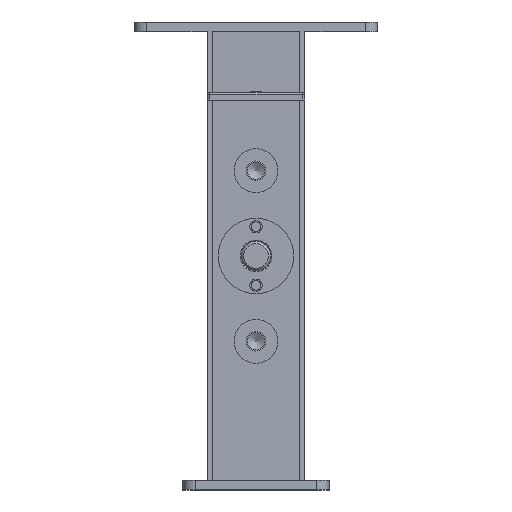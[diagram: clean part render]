
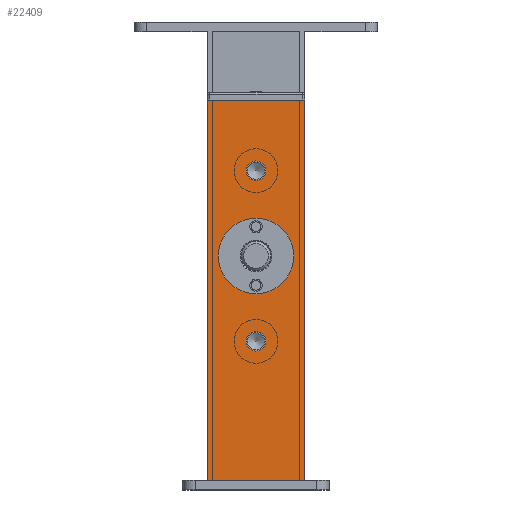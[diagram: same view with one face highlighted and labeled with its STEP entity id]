
A CAD part, front view. The second image highlights one B-rep face of the part: STEP entity #22409.
In plain terms, the highlighted planar face has unit normal (0, -1, 0).
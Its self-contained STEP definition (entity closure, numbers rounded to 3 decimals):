
#20707=CARTESIAN_POINT('',(388.024,-299.372,160.0));
#20708=VERTEX_POINT('',#20707);
#20732=CARTESIAN_POINT('',(350.024,-299.372,160.0));
#20733=VERTEX_POINT('',#20732);
#20740=CARTESIAN_POINT('',(388.024,-299.372,160.));
#20741=DIRECTION('',(-1.0,0.0,0.0));
#20742=VECTOR('',#20741,38.0);
#20743=LINE('',#20740,#20742);
#20744=EDGE_CURVE('',#20708,#20733,#20743,.T.);
#20774=CARTESIAN_POINT('',(349.024,-299.372,160.));
#20775=VERTEX_POINT('',#20774);
#20782=CARTESIAN_POINT('',(350.024,-299.372,160.));
#20783=DIRECTION('',(-1.0,0.0,0.0));
#20784=VECTOR('',#20783,1.);
#20785=LINE('',#20782,#20784);
#20786=EDGE_CURVE('',#20733,#20775,#20785,.T.);
#20843=CARTESIAN_POINT('',(389.024,-299.372,160.));
#20844=VERTEX_POINT('',#20843);
#20845=CARTESIAN_POINT('',(389.024,-299.372,160.));
#20846=DIRECTION('',(-1.0,0.0,0.0));
#20847=VECTOR('',#20846,1.);
#20848=LINE('',#20845,#20847);
#20849=EDGE_CURVE('',#20844,#20708,#20848,.T.);
#21920=CARTESIAN_POINT('',(369.024,-299.372,111.5));
#21921=VERTEX_POINT('',#21920);
#21922=CARTESIAN_POINT('',(369.024,-299.372,96.));
#21923=DIRECTION('',(0.0,1.0,0.0));
#21924=DIRECTION('',(0.0,0.0,1.0));
#21925=AXIS2_PLACEMENT_3D('',#21922,#21923,#21924);
#21926=CIRCLE('',#21925,15.5);
#21927=EDGE_CURVE('',#21921,#21921,#21926,.T.);
#22352=CARTESIAN_POINT('',(389.024,-299.372,4.));
#22353=DIRECTION('',(0.0,-1.0,0.0));
#22354=DIRECTION('',(0.0,0.0,1.0));
#22355=AXIS2_PLACEMENT_3D('',#22352,#22353,#22354);
#22356=PLANE('',#22355);
#22357=ORIENTED_EDGE('',*,*,#20849,.T.);
#22358=ORIENTED_EDGE('',*,*,#20744,.T.);
#22359=ORIENTED_EDGE('',*,*,#20786,.T.);
#22360=CARTESIAN_POINT('',(349.024,-299.372,4.));
#22361=VERTEX_POINT('',#22360);
#22362=CARTESIAN_POINT('',(349.024,-299.372,4.));
#22363=DIRECTION('',(0.0,0.0,1.0));
#22364=VECTOR('',#22363,156.0);
#22365=LINE('',#22362,#22364);
#22366=EDGE_CURVE('',#22361,#20775,#22365,.T.);
#22367=ORIENTED_EDGE('',*,*,#22366,.F.);
#22368=CARTESIAN_POINT('',(389.024,-299.372,4.));
#22369=VERTEX_POINT('',#22368);
#22370=CARTESIAN_POINT('',(389.024,-299.372,4.));
#22371=DIRECTION('',(-1.0,0.0,0.0));
#22372=VECTOR('',#22371,40.0);
#22373=LINE('',#22370,#22372);
#22374=EDGE_CURVE('',#22369,#22361,#22373,.T.);
#22375=ORIENTED_EDGE('',*,*,#22374,.F.);
#22376=CARTESIAN_POINT('',(389.024,-299.372,4.));
#22377=DIRECTION('',(0.0,0.0,1.0));
#22378=VECTOR('',#22377,156.0);
#22379=LINE('',#22376,#22378);
#22380=EDGE_CURVE('',#22369,#20844,#22379,.T.);
#22381=ORIENTED_EDGE('',*,*,#22380,.T.);
#22382=EDGE_LOOP('',(#22357,#22358,#22359,#22367,#22375,#22381));
#22383=FACE_OUTER_BOUND('',#22382,.T.);
#22384=ORIENTED_EDGE('',*,*,#21927,.T.);
#22385=EDGE_LOOP('',(#22384));
#22386=FACE_BOUND('',#22385,.T.);
#22387=CARTESIAN_POINT('',(365.024,-299.372,131.));
#22388=VERTEX_POINT('',#22387);
#22389=CARTESIAN_POINT('',(369.024,-299.372,131.));
#22390=DIRECTION('',(0.0,1.0,0.0));
#22391=DIRECTION('',(-1.0,0.0,0.0));
#22392=AXIS2_PLACEMENT_3D('',#22389,#22390,#22391);
#22393=CIRCLE('',#22392,4.0);
#22394=EDGE_CURVE('',#22388,#22388,#22393,.T.);
#22395=ORIENTED_EDGE('',*,*,#22394,.T.);
#22396=EDGE_LOOP('',(#22395));
#22397=FACE_BOUND('',#22396,.T.);
#22398=CARTESIAN_POINT('',(365.024,-299.372,61.));
#22399=VERTEX_POINT('',#22398);
#22400=CARTESIAN_POINT('',(369.024,-299.372,61.));
#22401=DIRECTION('',(0.0,1.0,0.0));
#22402=DIRECTION('',(-1.0,0.0,0.0));
#22403=AXIS2_PLACEMENT_3D('',#22400,#22401,#22402);
#22404=CIRCLE('',#22403,4.0);
#22405=EDGE_CURVE('',#22399,#22399,#22404,.T.);
#22406=ORIENTED_EDGE('',*,*,#22405,.T.);
#22407=EDGE_LOOP('',(#22406));
#22408=FACE_BOUND('',#22407,.T.);
#22409=ADVANCED_FACE('',(#22383,#22386,#22397,#22408),#22356,.T.);
